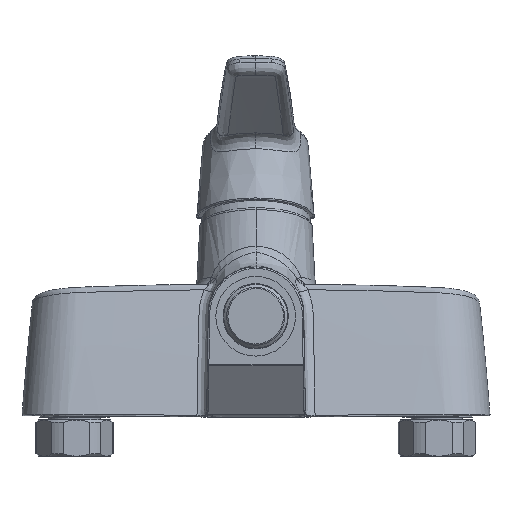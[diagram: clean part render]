
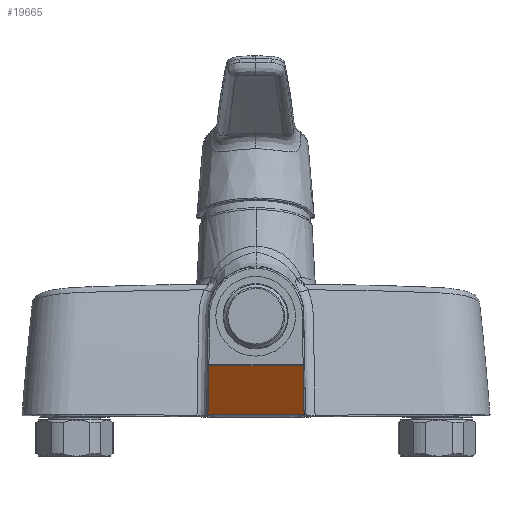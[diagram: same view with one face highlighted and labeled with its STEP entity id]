
A CAD part, front view. The second image highlights one B-rep face of the part: STEP entity #19665.
In plain terms, the highlighted planar face has unit normal (0, -0.82, -0.572).
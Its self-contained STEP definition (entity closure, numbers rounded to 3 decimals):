
#113 = CARTESIAN_POINT ( 'NONE',  ( -1.502, -28.583, 17.035 ) ) ;
#175 = EDGE_CURVE ( 'NONE', #339, #17411, #4060, .T. ) ;
#203 = DIRECTION ( 'NONE',  ( -1., 0.002, -0.002 ) ) ;
#339 = VERTEX_POINT ( 'NONE', #12021 ) ;
#503 = CARTESIAN_POINT ( 'NONE',  ( -19.517, -42.82, 37.44 ) ) ;
#1403 = VERTEX_POINT ( 'NONE', #503 ) ;
#1872 = CARTESIAN_POINT ( 'NONE',  ( 20.105, -28.615, 17.08 ) ) ;
#2082 = ORIENTED_EDGE ( 'NONE', *, *, #22375, .F. ) ;
#2334 = CARTESIAN_POINT ( 'NONE',  ( -9.014, -28.596, 17.053 ) ) ;
#2760 = ORIENTED_EDGE ( 'NONE', *, *, #20778, .F. ) ;
#3065 = VECTOR ( 'NONE', #6554, 1000. ) ;
#3159 = ORIENTED_EDGE ( 'NONE', *, *, #25392, .T. ) ;
#3297 = VECTOR ( 'NONE', #17633, 1000. ) ;
#3324 = LINE ( 'NONE', #24003, #3065 ) ;
#3354 = LINE ( 'NONE', #26129, #3297 ) ;
#4060 = B_SPLINE_CURVE_WITH_KNOTS ( 'NONE', 3,
 ( #12375, #13228, #12318, #12294 ),
 .UNSPECIFIED., .F., .F.,
 ( 4, 4 ),
 ( 0., 1. ),
 .UNSPECIFIED. ) ;
#4484 = CARTESIAN_POINT ( 'NONE',  ( 16.527, -28.609, 17.071 ) ) ;
#4579 = CARTESIAN_POINT ( 'NONE',  ( -16.527, -28.609, 17.071 ) ) ;
#5401 = LINE ( 'NONE', #23458, #5433 ) ;
#5433 = VECTOR ( 'NONE', #21323, 1000. ) ;
#5580 = CARTESIAN_POINT ( 'NONE',  ( 20.105, -28.615, 17.08 ) ) ;
#6554 = DIRECTION ( 'NONE',  ( -0.014, 0.572, -0.82 ) ) ;
#6587 = VERTEX_POINT ( 'NONE', #5580 ) ;
#6757 = VERTEX_POINT ( 'NONE', #21397 ) ;
#6924 = VECTOR ( 'NONE', #8530, 1000. ) ;
#6982 = CARTESIAN_POINT ( 'NONE',  ( -20.105, -28.615, 17.08 ) ) ;
#6996 = EDGE_LOOP ( 'NONE', ( #14247, #2760, #2082, #13620, #3159, #21193, #19147, #21534 ) ) ;
#7514 = LINE ( 'NONE', #19566, #6924 ) ;
#8530 = DIRECTION ( 'NONE',  ( -0.014, -0.572, 0.82 ) ) ;
#8746 = VERTEX_POINT ( 'NONE', #22653 ) ;
#8975 = VECTOR ( 'NONE', #203, 1000. ) ;
#9255 = LINE ( 'NONE', #13522, #8975 ) ;
#9939 = FACE_OUTER_BOUND ( 'NONE', #6996, .T. ) ;
#10495 = VERTEX_POINT ( 'NONE', #16386 ) ;
#11199 = CARTESIAN_POINT ( 'NONE',  ( 9.014, -28.596, 17.053 ) ) ;
#12021 = CARTESIAN_POINT ( 'NONE',  ( -19.849, -29.698, 18.633 ) ) ;
#12294 = CARTESIAN_POINT ( 'NONE',  ( -20.105, -28.615, 17.08 ) ) ;
#12318 = CARTESIAN_POINT ( 'NONE',  ( -19.944, -28.967, 17.584 ) ) ;
#12375 = CARTESIAN_POINT ( 'NONE',  ( -19.849, -29.698, 18.633 ) ) ;
#12517 = PLANE ( 'NONE',  #18324 ) ;
#13228 = CARTESIAN_POINT ( 'NONE',  ( -19.858, -29.328, 18.101 ) ) ;
#13330 = VERTEX_POINT ( 'NONE', #23562 ) ;
#13426 = CARTESIAN_POINT ( 'NONE',  ( 1.502, -28.583, 17.035 ) ) ;
#13522 = CARTESIAN_POINT ( 'NONE',  ( 18.029, -28.611, 17.075 ) ) ;
#13620 = ORIENTED_EDGE ( 'NONE', *, *, #23074, .T. ) ;
#14247 = ORIENTED_EDGE ( 'NONE', *, *, #20747, .F. ) ;
#14480 = B_SPLINE_CURVE_WITH_KNOTS ( 'NONE', 3,
 ( #25947, #28082, #15216, #1872 ),
 .UNSPECIFIED., .F., .F.,
 ( 4, 4 ),
 ( 0., 1. ),
 .UNSPECIFIED. ) ;
#14757 = DIRECTION ( 'NONE',  ( 0., 0.572, -0.82 ) ) ;
#15216 = CARTESIAN_POINT ( 'NONE',  ( 19.942, -28.97, 17.588 ) ) ;
#15668 = CARTESIAN_POINT ( 'NONE',  ( -4.507, -28.589, 17.042 ) ) ;
#16386 = CARTESIAN_POINT ( 'NONE',  ( -18.029, -28.611, 17.075 ) ) ;
#17411 = VERTEX_POINT ( 'NONE', #6982 ) ;
#17633 = DIRECTION ( 'NONE',  ( -1., -0.002, 0.002 ) ) ;
#17891 = CARTESIAN_POINT ( 'NONE',  ( -13.522, -28.604, 17.064 ) ) ;
#18324 = AXIS2_PLACEMENT_3D ( 'NONE', #26993, #27647, #14757 ) ;
#19147 = ORIENTED_EDGE ( 'NONE', *, *, #175, .T. ) ;
#19566 = CARTESIAN_POINT ( 'NONE',  ( 19.849, -29.698, 18.633 ) ) ;
#19665 = ADVANCED_FACE ( 'NONE', ( #9939 ), #12517, .T. ) ;
#20089 = CARTESIAN_POINT ( 'NONE',  ( -18.029, -28.611, 17.075 ) ) ;
#20747 = EDGE_CURVE ( 'NONE', #8746, #10495, #20803, .T. ) ;
#20778 = EDGE_CURVE ( 'NONE', #6587, #8746, #9255, .T. ) ;
#20803 = B_SPLINE_CURVE_WITH_KNOTS ( 'NONE', 3,
 ( #22123, #4484, #24252, #11199, #26384, #13426, #113, #15668, #2334, #17891, #4579, #20089 ),
 .UNSPECIFIED., .F., .F.,
 ( 4, 1, 1, 1, 2, 1, 1, 1, 4 ),
 ( -0.018, -0.014, -0.009, -0.005, 0., 0.005, 0.009, 0.014, 0.018 ),
 .UNSPECIFIED. ) ;
#21193 = ORIENTED_EDGE ( 'NONE', *, *, #27705, .T. ) ;
#21323 = DIRECTION ( 'NONE',  ( -1., 0., 0. ) ) ;
#21397 = CARTESIAN_POINT ( 'NONE',  ( 19.517, -42.82, 37.44 ) ) ;
#21534 = ORIENTED_EDGE ( 'NONE', *, *, #27663, .F. ) ;
#22123 = CARTESIAN_POINT ( 'NONE',  ( 18.029, -28.611, 17.075 ) ) ;
#22375 = EDGE_CURVE ( 'NONE', #13330, #6587, #14480, .T. ) ;
#22653 = CARTESIAN_POINT ( 'NONE',  ( 18.029, -28.611, 17.075 ) ) ;
#23074 = EDGE_CURVE ( 'NONE', #13330, #6757, #7514, .T. ) ;
#23458 = CARTESIAN_POINT ( 'NONE',  ( 0.872, -42.82, 37.44 ) ) ;
#23562 = CARTESIAN_POINT ( 'NONE',  ( 19.849, -29.698, 18.633 ) ) ;
#24003 = CARTESIAN_POINT ( 'NONE',  ( -19.517, -42.82, 37.44 ) ) ;
#24252 = CARTESIAN_POINT ( 'NONE',  ( 13.522, -28.604, 17.064 ) ) ;
#25392 = EDGE_CURVE ( 'NONE', #6757, #1403, #5401, .T. ) ;
#25947 = CARTESIAN_POINT ( 'NONE',  ( 19.849, -29.698, 18.633 ) ) ;
#26129 = CARTESIAN_POINT ( 'NONE',  ( -20.105, -28.615, 17.08 ) ) ;
#26384 = CARTESIAN_POINT ( 'NONE',  ( 4.507, -28.589, 17.042 ) ) ;
#26993 = CARTESIAN_POINT ( 'NONE',  ( 0.872, -43., 37.698 ) ) ;
#27647 = DIRECTION ( 'NONE',  ( 0., -0.82, -0.572 ) ) ;
#27663 = EDGE_CURVE ( 'NONE', #10495, #17411, #3354, .T. ) ;
#27705 = EDGE_CURVE ( 'NONE', #1403, #339, #3324, .T. ) ;
#28082 = CARTESIAN_POINT ( 'NONE',  ( 19.858, -29.331, 18.107 ) ) ;
